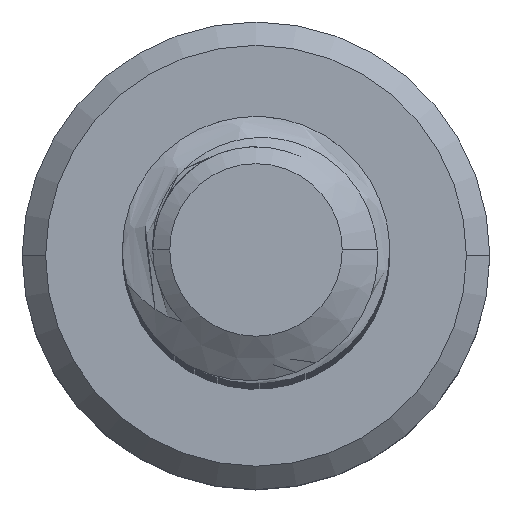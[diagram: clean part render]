
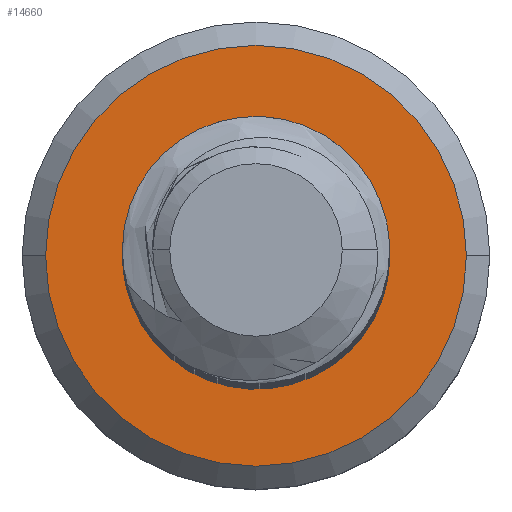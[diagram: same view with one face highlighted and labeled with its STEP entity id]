
A CAD part, top view. The second image highlights one B-rep face of the part: STEP entity #14660.
In plain terms, the highlighted planar face has unit normal (0, 0, 1).
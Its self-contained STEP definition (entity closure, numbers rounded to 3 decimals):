
#198 = DIRECTION ( 'NONE',  ( 0., 0., 1. ) ) ;
#414 = CARTESIAN_POINT ( 'NONE',  ( 0.874, -1.799, -50. ) ) ;
#586 = VERTEX_POINT ( 'NONE', #6638 ) ;
#802 = CIRCLE ( 'NONE', #7720, 3.15 ) ;
#1061 = CARTESIAN_POINT ( 'NONE',  ( 0.499, 1.622, -50. ) ) ;
#1116 = CARTESIAN_POINT ( 'NONE',  ( 1.937, 0.051, -50. ) ) ;
#1160 = ORIENTED_EDGE ( 'NONE', *, *, #2056, .F. ) ;
#1169 = CARTESIAN_POINT ( 'NONE',  ( 0.994, 1.449, -50. ) ) ;
#1191 = B_SPLINE_CURVE_WITH_KNOTS ( 'NONE', 3,
 ( #11848, #7730, #17022, #13081, #11748, #1061, #9045, #1169, #14296, #7619, #10503, #9161, #1116, #5010, #2340, #14468 ),
 .UNSPECIFIED., .F., .F.,
 ( 4, 2, 2, 2, 2, 2, 2, 4 ),
 ( 0., 0.001, 0.001, 0.002, 0.002, 0.003, 0.004, 0.004 ),
 .UNSPECIFIED. ) ;
#1346 = CARTESIAN_POINT ( 'NONE',  ( 0.708, -1.86, -50. ) ) ;
#1403 = CARTESIAN_POINT ( 'NONE',  ( -1.59, 0.169, -50. ) ) ;
#2056 = EDGE_CURVE ( 'NONE', #3501, #17163, #8242, .T. ) ;
#2340 = CARTESIAN_POINT ( 'NONE',  ( 1.934, -0.472, -50. ) ) ;
#2432 = CARTESIAN_POINT ( 'NONE',  ( 0., 0., -50. ) ) ;
#2600 = DIRECTION ( 'NONE',  ( -1., 0., 0. ) ) ;
#2620 = CARTESIAN_POINT ( 'NONE',  ( -1.488, -0.862, -50. ) ) ;
#3210 = EDGE_LOOP ( 'NONE', ( #10858, #9547 ) ) ;
#3501 = VERTEX_POINT ( 'NONE', #414 ) ;
#3831 = DIRECTION ( 'NONE',  ( 0., 0., -1. ) ) ;
#3898 = EDGE_CURVE ( 'NONE', #14147, #11959, #11703, .T. ) ;
#3911 = CARTESIAN_POINT ( 'NONE',  ( 1.894, -0.643, -50. ) ) ;
#3971 = CARTESIAN_POINT ( 'NONE',  ( -1.632, -0.181, -50. ) ) ;
#4022 = CARTESIAN_POINT ( 'NONE',  ( -1.463, 0.497, -50. ) ) ;
#4135 = AXIS2_PLACEMENT_3D ( 'NONE', #14961, #8767, #8405 ) ;
#4419 = AXIS2_PLACEMENT_3D ( 'NONE', #2432, #3831, #6496 ) ;
#4596 = EDGE_CURVE ( 'NONE', #5409, #17163, #1191, .T. ) ;
#5010 = CARTESIAN_POINT ( 'NONE',  ( 1.951, -0.296, -50. ) ) ;
#5236 = EDGE_CURVE ( 'NONE', #11959, #14147, #802, .T. ) ;
#5409 = VERTEX_POINT ( 'NONE', #5504 ) ;
#5504 = CARTESIAN_POINT ( 'NONE',  ( -0.675, 1.39, -50. ) ) ;
#5529 = CARTESIAN_POINT ( 'NONE',  ( 0.014, -1.923, -50. ) ) ;
#6099 = CARTESIAN_POINT ( 'NONE',  ( -3.15, 0., -50. ) ) ;
#6291 = EDGE_CURVE ( 'NONE', #586, #5409, #11670, .T. ) ;
#6496 = DIRECTION ( 'NONE',  ( 1., 0., 0. ) ) ;
#6638 = CARTESIAN_POINT ( 'NONE',  ( -1.463, 0.497, -50. ) ) ;
#6763 = CARTESIAN_POINT ( 'NONE',  ( -0.807, -1.647, -50. ) ) ;
#7619 = CARTESIAN_POINT ( 'NONE',  ( 1.549, 1.027, -50. ) ) ;
#7720 = AXIS2_PLACEMENT_3D ( 'NONE', #7769, #14514, #2600 ) ;
#7730 = CARTESIAN_POINT ( 'NONE',  ( -0.528, 1.487, -50. ) ) ;
#7769 = CARTESIAN_POINT ( 'NONE',  ( 0., 0., -50. ) ) ;
#7905 = CARTESIAN_POINT ( 'NONE',  ( 3.15, 0., -50. ) ) ;
#8009 = FACE_BOUND ( 'NONE', #16082, .T. ) ;
#8139 = CARTESIAN_POINT ( 'NONE',  ( -1.315, -1.166, -50. ) ) ;
#8201 = CARTESIAN_POINT ( 'NONE',  ( -1.553, -0.7, -50. ) ) ;
#8229 = AXIS2_PLACEMENT_3D ( 'NONE', #14276, #10202, #11600 ) ;
#8242 = CIRCLE ( 'NONE', #12322, 2. ) ;
#8405 = DIRECTION ( 'NONE',  ( -1., 0., 0. ) ) ;
#8695 = EDGE_CURVE ( 'NONE', #3501, #586, #16769, .T. ) ;
#8767 = DIRECTION ( 'NONE',  ( 0., 0., 1. ) ) ;
#9045 = CARTESIAN_POINT ( 'NONE',  ( 0.668, 1.582, -50. ) ) ;
#9161 = CARTESIAN_POINT ( 'NONE',  ( 1.906, 0.225, -50. ) ) ;
#9518 = CARTESIAN_POINT ( 'NONE',  ( -0.497, -1.804, -50. ) ) ;
#9547 = ORIENTED_EDGE ( 'NONE', *, *, #5236, .T. ) ;
#10202 = DIRECTION ( 'NONE',  ( 0., 0., -1. ) ) ;
#10503 = CARTESIAN_POINT ( 'NONE',  ( 1.746, 0.722, -50. ) ) ;
#10638 = CARTESIAN_POINT ( 'NONE',  ( -0.953, -1.545, -50. ) ) ;
#10761 = CARTESIAN_POINT ( 'NONE',  ( -1.625, -0.354, -50. ) ) ;
#10810 = CARTESIAN_POINT ( 'NONE',  ( 0., 0., -50. ) ) ;
#10858 = ORIENTED_EDGE ( 'NONE', *, *, #3898, .T. ) ;
#11174 = ORIENTED_EDGE ( 'NONE', *, *, #6291, .T. ) ;
#11190 = ORIENTED_EDGE ( 'NONE', *, *, #4596, .T. ) ;
#11480 = ORIENTED_EDGE ( 'NONE', *, *, #8695, .T. ) ;
#11600 = DIRECTION ( 'NONE',  ( -1., 0., 0. ) ) ;
#11670 = CIRCLE ( 'NONE', #4419, 1.545 ) ;
#11703 = CIRCLE ( 'NONE', #4135, 3.15 ) ;
#11748 = CARTESIAN_POINT ( 'NONE',  ( 0.149, 1.65, -50. ) ) ;
#11848 = CARTESIAN_POINT ( 'NONE',  ( -0.675, 1.39, -50. ) ) ;
#11959 = VERTEX_POINT ( 'NONE', #7905 ) ;
#12098 = CARTESIAN_POINT ( 'NONE',  ( -1.205, -1.305, -50. ) ) ;
#12322 = AXIS2_PLACEMENT_3D ( 'NONE', #10810, #198, #13378 ) ;
#13081 = CARTESIAN_POINT ( 'NONE',  ( -0.026, 1.639, -50. ) ) ;
#13378 = DIRECTION ( 'NONE',  ( 1., 0., 0. ) ) ;
#13548 = CARTESIAN_POINT ( 'NONE',  ( 0.538, -1.898, -50. ) ) ;
#14147 = VERTEX_POINT ( 'NONE', #6099 ) ;
#14276 = CARTESIAN_POINT ( 'NONE',  ( 0., 0., -50. ) ) ;
#14296 = CARTESIAN_POINT ( 'NONE',  ( 1.144, 1.36, -50. ) ) ;
#14468 = CARTESIAN_POINT ( 'NONE',  ( 1.894, -0.643, -50. ) ) ;
#14514 = DIRECTION ( 'NONE',  ( 0., 0., 1. ) ) ;
#14653 = CARTESIAN_POINT ( 'NONE',  ( 0.189, -1.929, -50. ) ) ;
#14660 = ADVANCED_FACE ( 'NONE', ( #17227, #8009 ), #15499, .F. ) ;
#14764 = CARTESIAN_POINT ( 'NONE',  ( 0.874, -1.799, -50. ) ) ;
#14828 = CARTESIAN_POINT ( 'NONE',  ( -0.328, -1.861, -50. ) ) ;
#14961 = CARTESIAN_POINT ( 'NONE',  ( 0., 0., -50. ) ) ;
#15499 = PLANE ( 'NONE',  #8229 ) ;
#16082 = EDGE_LOOP ( 'NONE', ( #1160, #11480, #11174, #11190 ) ) ;
#16101 = CARTESIAN_POINT ( 'NONE',  ( -1.54, 0.338, -50. ) ) ;
#16769 = B_SPLINE_CURVE_WITH_KNOTS ( 'NONE', 3,
 ( #14764, #1346, #13548, #14653, #5529, #14828, #9518, #6763, #10638, #12098, #8139, #2620, #8201, #10761, #3971, #1403, #16101, #4022 ),
 .UNSPECIFIED., .F., .F.,
 ( 4, 2, 2, 2, 2, 2, 2, 2, 4 ),
 ( 0., 0.001, 0.001, 0.002, 0.002, 0.003, 0.003, 0.004, 0.004 ),
 .UNSPECIFIED. ) ;
#17022 = CARTESIAN_POINT ( 'NONE',  ( -0.368, 1.556, -50. ) ) ;
#17163 = VERTEX_POINT ( 'NONE', #3911 ) ;
#17227 = FACE_OUTER_BOUND ( 'NONE', #3210, .T. ) ;
